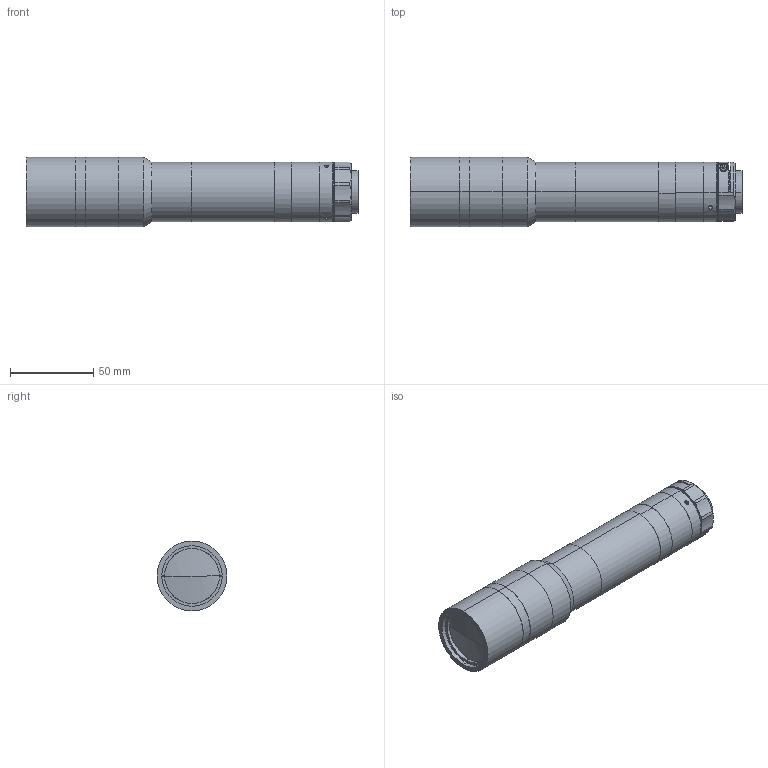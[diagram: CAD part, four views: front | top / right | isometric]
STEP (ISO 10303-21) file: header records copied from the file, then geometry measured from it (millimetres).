
FILE_DESCRIPTION (( 'STEP AP203' ), '1' );
FILE_NAME ('XF-MH03X526.STEP', '2020-08-24T07:15:42', ( 'canrill-02' ), ( '' ), 'SwSTEP 2.0', 'SolidWorks 2014', '' );
FILE_SCHEMA (( 'CONFIG_CONTROL_DESIGN' ));
Length unit declared in the file: millimetre
Products named in the file (1): XF-MH03X526
Bounding box: 199.72 x 42 x 42 mm (x, y, z)
Surface area: 31513.1 mm2 (no closed solid volume)
Topology: 0 solids, 15 shells, 112 faces, 296 edges, 203 vertices
Faces by surface type: cylinder 51, plane 42, cone 15, sphere 2, torus 2
Entity records: 3855 total; most frequent: CARTESIAN_POINT 931, DIRECTION 654, ORIENTED_EDGE 500, EDGE_CURVE 294, AXIS2_PLACEMENT_3D 270, VERTEX_POINT 203, CIRCLE 157, EDGE_LOOP 138
